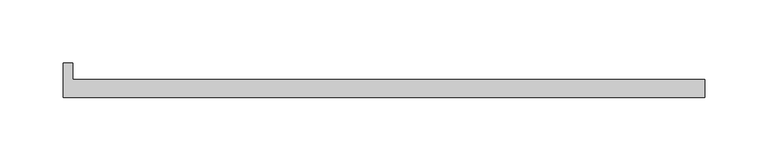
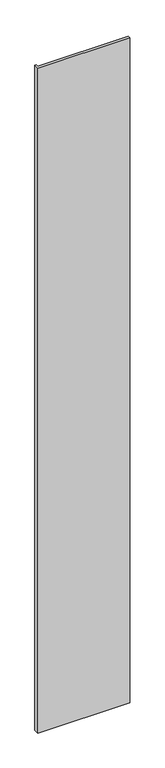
"""IFC4 building model written with IfcOpenShell, lengths in millimetres: plate geometry, Walls_Curtain-Walls_Danpal_AIRPT : Walls_Curtain-Walls_Danpal_AIRPT."""

from ifc_helpers import new_model, si_unit, origin, origin_with_axes, place, context, project, spatial, polyline, outline, extrude, source, transform, mapped, element, save


def plate_f91dd126(model_context):
    return source(origin(), model_context, "Body", "SweptSolid", [
        extrude(outline(polyline([(-246.8723459, 14.1228126), (254.5917029, 14.1228126), (254.5917029, 0.0), (-254.5917029, 0.0), (-254.5917029, 27.3924397), (-246.8723459, 27.3924397), (-246.8723459, 14.1228126)])), origin_with_axes(), (0.0, 0.0, 1.0), 3887.6638156),
    ])


if __name__ == "__main__":
    model = new_model("IFC4")
    model_context = context("Model", 3, world=origin())
    ifc_project = project(units=[si_unit("LENGTHUNIT", "METRE", prefix="MILLI")], contexts=[model_context])
    site = spatial("IfcSite", under=ifc_project)
    building = spatial("IfcBuilding", under=site)
    placement = place(None, origin())
    plate_shape = plate_f91dd126(model_context)
    element("IfcPlate", 1, ObjectType="Walls_Curtain-Walls_Danpal_AIRPT : Walls_Curtain-Walls_Danpal_AIRPT", at=placement, inside=building, context=model_context, shape_type="MappedRepresentation", body=[
        mapped(plate_shape, transform((0.0, 0.0, 0.0), x_axis=(1.0, 0.0, 0.0), y_axis=(0.0, 1.0, 0.0), z_axis=(0.0, 0.0, 1.0))),
    ])
    save(model, "model.ifc")
